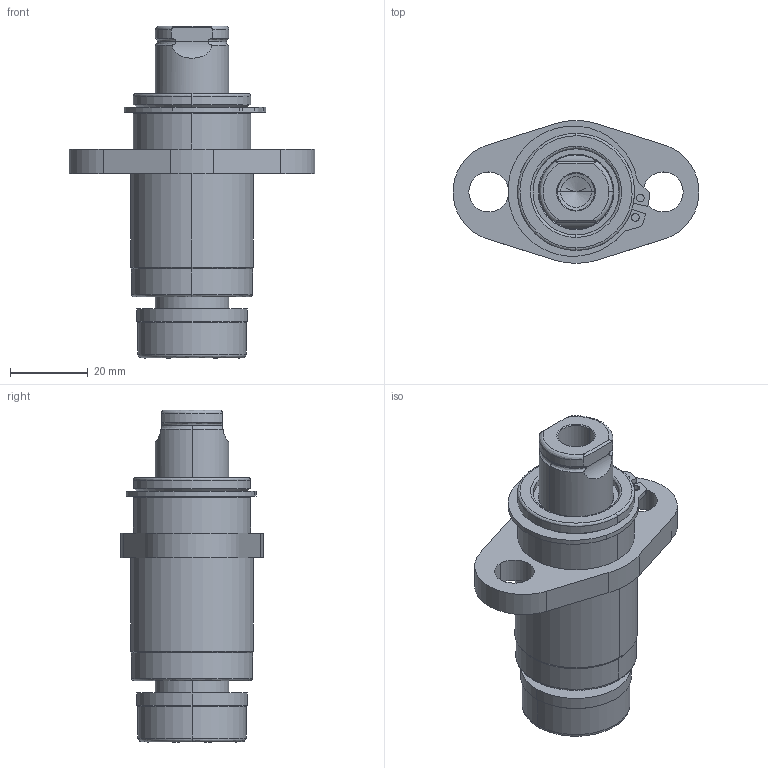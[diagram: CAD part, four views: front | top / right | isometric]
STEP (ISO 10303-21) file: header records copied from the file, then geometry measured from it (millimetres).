
FILE_DESCRIPTION (( 'STEP AP214' ), '1' );
FILE_NAME ('GK75-L2-E-XXX.STEP', '2020-09-17T17:29:23', ( '' ), ( '' ), 'SwSTEP 2.0', 'SolidWorks 2017', '' );
FILE_SCHEMA (( 'AUTOMOTIVE_DESIGN' ));
Length unit declared in the file: inch
Products named in the file (7): RetainingRing-GK0.75-E; GK75-L2-E-XXX; GK75-E-XXX-GuidePin; GK0.75-L2-E-Base; GK75-DampeningWasher
Assembly tree (6 placements, depth 3):
  GK75-L2-E-XXX
    GK0.75-L2-E-Base
      GK0.75-L2-E-Base
      RetainingRing-GK0.75-E
    GK75-E-XXX-GuidePin
      GK75-DampeningWasher
      GK75-E-XXX-GuidePin
Bounding box: 63.41 x 36.83 x 85.67 mm (x, y, z)
Volume: 56605.8 mm3; surface area: 21055.2 mm2
Topology: 4 solids, 4 shells, 120 faces, 284 edges, 177 vertices
Faces by surface type: cylinder 57, plane 28, bspline 21, cone 14
Entity records: 4537 total; most frequent: CARTESIAN_POINT 1408, DIRECTION 605, ORIENTED_EDGE 564, EDGE_CURVE 282, AXIS2_PLACEMENT_3D 248, VERTEX_POINT 177, EDGE_LOOP 139, CIRCLE 138
